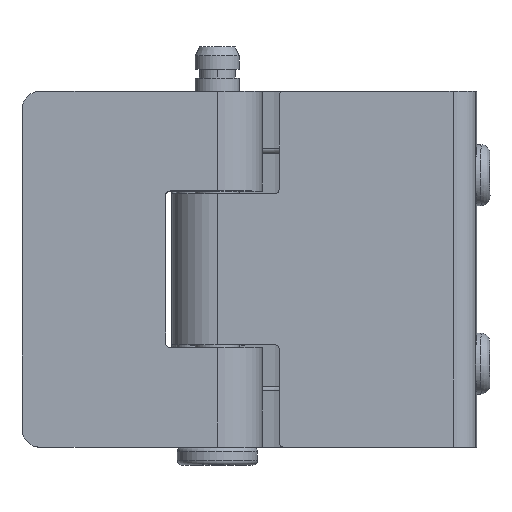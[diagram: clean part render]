
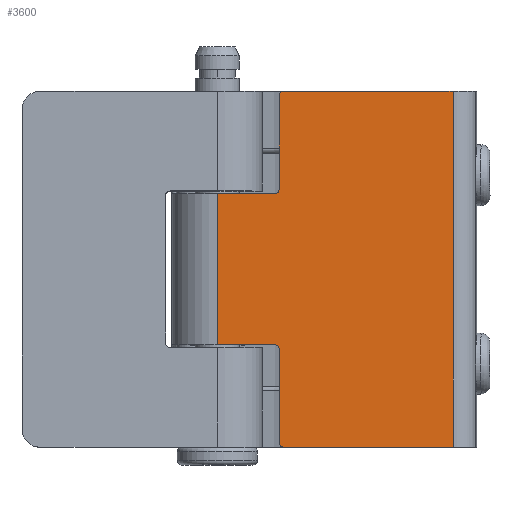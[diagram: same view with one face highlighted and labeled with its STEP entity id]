
A CAD part, top view. The second image highlights one B-rep face of the part: STEP entity #3600.
In plain terms, the highlighted planar face has unit normal (0, 0, 1).
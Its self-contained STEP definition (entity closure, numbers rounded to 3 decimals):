
#40 = VERTEX_POINT ( 'NONE', #4978 ) ;
#186 = CARTESIAN_POINT ( 'NONE',  ( 6.965, -19.496, 5.1 ) ) ;
#216 = ORIENTED_EDGE ( 'NONE', *, *, #5064, .T. ) ;
#233 = CARTESIAN_POINT ( 'NONE',  ( 6.461, 8.5, 5.1 ) ) ;
#273 = VECTOR ( 'NONE', #4726, 1000. ) ;
#319 = DIRECTION ( 'NONE',  ( 0., 0., 1. ) ) ;
#486 = CARTESIAN_POINT ( 'NONE',  ( 6.461, 8.5, 5.1 ) ) ;
#526 = EDGE_CURVE ( 'NONE', #40, #3540, #1320, .T. ) ;
#531 = CIRCLE ( 'NONE', #3613, 0.504 ) ;
#544 = ORIENTED_EDGE ( 'NONE', *, *, #2763, .T. ) ;
#668 = CARTESIAN_POINT ( 'NONE',  ( 6.965, -9.004, 5.1 ) ) ;
#680 = DIRECTION ( 'NONE',  ( 0., 1., 0. ) ) ;
#727 = EDGE_CURVE ( 'NONE', #881, #4430, #1706, .T. ) ;
#825 = VERTEX_POINT ( 'NONE', #233 ) ;
#852 = VECTOR ( 'NONE', #4404, 1000. ) ;
#881 = VERTEX_POINT ( 'NONE', #186 ) ;
#900 = CARTESIAN_POINT ( 'NONE',  ( 7.469, -20., 5.1 ) ) ;
#917 = DIRECTION ( 'NONE',  ( 1., 0., 0. ) ) ;
#983 = VECTOR ( 'NONE', #4561, 1000. ) ;
#1000 = LINE ( 'NONE', #2740, #5214 ) ;
#1033 = EDGE_CURVE ( 'NONE', #3593, #5596, #1000, .T. ) ;
#1101 = LINE ( 'NONE', #2835, #983 ) ;
#1128 = AXIS2_PLACEMENT_3D ( 'NONE', #5600, #4243, #1300 ) ;
#1204 = VERTEX_POINT ( 'NONE', #4548 ) ;
#1205 = VECTOR ( 'NONE', #4107, 1000. ) ;
#1248 = DIRECTION ( 'NONE',  ( 1., 0., 0. ) ) ;
#1249 = ORIENTED_EDGE ( 'NONE', *, *, #4942, .T. ) ;
#1300 = DIRECTION ( 'NONE',  ( 0., 1., 0. ) ) ;
#1320 = LINE ( 'NONE', #4819, #5069 ) ;
#1391 = CIRCLE ( 'NONE', #1128, 0.504 ) ;
#1567 = CIRCLE ( 'NONE', #1918, 0.504 ) ;
#1638 = LINE ( 'NONE', #3778, #3031 ) ;
#1663 = CARTESIAN_POINT ( 'NONE',  ( 6.461, 9.004, 5.1 ) ) ;
#1692 = DIRECTION ( 'NONE',  ( 0., 0., -1. ) ) ;
#1706 = LINE ( 'NONE', #5152, #273 ) ;
#1776 = CARTESIAN_POINT ( 'NONE',  ( 0., -8.5, 5.1 ) ) ;
#1779 = DIRECTION ( 'NONE',  ( 0., 1., 0. ) ) ;
#1832 = LINE ( 'NONE', #2267, #4921 ) ;
#1918 = AXIS2_PLACEMENT_3D ( 'NONE', #5026, #4115, #680 ) ;
#2013 = EDGE_CURVE ( 'NONE', #3785, #1204, #1832, .T. ) ;
#2229 = CARTESIAN_POINT ( 'NONE',  ( 7.469, -19.496, 5.1 ) ) ;
#2255 = CIRCLE ( 'NONE', #2622, 0.504 ) ;
#2262 = EDGE_CURVE ( 'NONE', #3785, #4357, #4590, .T. ) ;
#2267 = CARTESIAN_POINT ( 'NONE',  ( 0., -8.5, 5.1 ) ) ;
#2286 = ORIENTED_EDGE ( 'NONE', *, *, #2013, .F. ) ;
#2622 = AXIS2_PLACEMENT_3D ( 'NONE', #2229, #3455, #5190 ) ;
#2726 = CARTESIAN_POINT ( 'NONE',  ( 6.965, 9.004, 5.1 ) ) ;
#2740 = CARTESIAN_POINT ( 'NONE',  ( 6.965, 19.496, 5.1 ) ) ;
#2763 = EDGE_CURVE ( 'NONE', #4357, #4430, #1567, .T. ) ;
#2795 = DIRECTION ( 'NONE',  ( 0., -1., 0. ) ) ;
#2804 = ORIENTED_EDGE ( 'NONE', *, *, #4817, .T. ) ;
#2835 = CARTESIAN_POINT ( 'NONE',  ( 7.469, -20., 5.1 ) ) ;
#2882 = EDGE_CURVE ( 'NONE', #3540, #4364, #1638, .T. ) ;
#2896 = ORIENTED_EDGE ( 'NONE', *, *, #2882, .F. ) ;
#2912 = ORIENTED_EDGE ( 'NONE', *, *, #3158, .T. ) ;
#3031 = VECTOR ( 'NONE', #5238, 1000. ) ;
#3158 = EDGE_CURVE ( 'NONE', #825, #1204, #4810, .T. ) ;
#3228 = CARTESIAN_POINT ( 'NONE',  ( 6.461, -8.5, 5.1 ) ) ;
#3259 = EDGE_LOOP ( 'NONE', ( #2804, #2896, #4398, #3401, #3983, #1249, #2912, #2286, #3266, #544, #3928, #216 ) ) ;
#3266 = ORIENTED_EDGE ( 'NONE', *, *, #2262, .T. ) ;
#3401 = ORIENTED_EDGE ( 'NONE', *, *, #3545, .T. ) ;
#3417 = FACE_OUTER_BOUND ( 'NONE', #3259, .T. ) ;
#3455 = DIRECTION ( 'NONE',  ( 0., 0., 1. ) ) ;
#3540 = VERTEX_POINT ( 'NONE', #4209 ) ;
#3545 = EDGE_CURVE ( 'NONE', #40, #3593, #1391, .T. ) ;
#3593 = VERTEX_POINT ( 'NONE', #5144 ) ;
#3600 = ADVANCED_FACE ( 'NONE', ( #3417 ), #4742, .T. ) ;
#3613 = AXIS2_PLACEMENT_3D ( 'NONE', #1663, #1692, #3775 ) ;
#3775 = DIRECTION ( 'NONE',  ( 1., 0., 0. ) ) ;
#3778 = CARTESIAN_POINT ( 'NONE',  ( 26.503, 20., 5.1 ) ) ;
#3785 = VERTEX_POINT ( 'NONE', #1776 ) ;
#3928 = ORIENTED_EDGE ( 'NONE', *, *, #727, .F. ) ;
#3983 = ORIENTED_EDGE ( 'NONE', *, *, #1033, .T. ) ;
#4075 = CARTESIAN_POINT ( 'NONE',  ( 26.503, -20., 5.1 ) ) ;
#4107 = DIRECTION ( 'NONE',  ( 1., 0., 0. ) ) ;
#4115 = DIRECTION ( 'NONE',  ( 0., 0., -1. ) ) ;
#4168 = CARTESIAN_POINT ( 'NONE',  ( 0., -8.5, 5.1 ) ) ;
#4209 = CARTESIAN_POINT ( 'NONE',  ( 26.503, 20., 5.1 ) ) ;
#4237 = VERTEX_POINT ( 'NONE', #900 ) ;
#4243 = DIRECTION ( 'NONE',  ( 0., 0., 1. ) ) ;
#4316 = AXIS2_PLACEMENT_3D ( 'NONE', #4325, #319, #1248 ) ;
#4325 = CARTESIAN_POINT ( 'NONE',  ( 0., -20., 5.1 ) ) ;
#4357 = VERTEX_POINT ( 'NONE', #3228 ) ;
#4364 = VERTEX_POINT ( 'NONE', #4075 ) ;
#4398 = ORIENTED_EDGE ( 'NONE', *, *, #526, .F. ) ;
#4404 = DIRECTION ( 'NONE',  ( -1., 0., 0. ) ) ;
#4430 = VERTEX_POINT ( 'NONE', #668 ) ;
#4548 = CARTESIAN_POINT ( 'NONE',  ( 0., 8.5, 5.1 ) ) ;
#4561 = DIRECTION ( 'NONE',  ( 1., 0., 0. ) ) ;
#4590 = LINE ( 'NONE', #4168, #1205 ) ;
#4726 = DIRECTION ( 'NONE',  ( 0., 1., 0. ) ) ;
#4742 = PLANE ( 'NONE',  #4316 ) ;
#4810 = LINE ( 'NONE', #486, #852 ) ;
#4817 = EDGE_CURVE ( 'NONE', #4237, #4364, #1101, .T. ) ;
#4819 = CARTESIAN_POINT ( 'NONE',  ( 7.469, 20., 5.1 ) ) ;
#4921 = VECTOR ( 'NONE', #1779, 1000. ) ;
#4942 = EDGE_CURVE ( 'NONE', #5596, #825, #531, .T. ) ;
#4978 = CARTESIAN_POINT ( 'NONE',  ( 7.469, 20., 5.1 ) ) ;
#5026 = CARTESIAN_POINT ( 'NONE',  ( 6.461, -9.004, 5.1 ) ) ;
#5064 = EDGE_CURVE ( 'NONE', #881, #4237, #2255, .T. ) ;
#5069 = VECTOR ( 'NONE', #917, 1000. ) ;
#5144 = CARTESIAN_POINT ( 'NONE',  ( 6.965, 19.496, 5.1 ) ) ;
#5152 = CARTESIAN_POINT ( 'NONE',  ( 6.965, -19.496, 5.1 ) ) ;
#5190 = DIRECTION ( 'NONE',  ( -1., 0., 0. ) ) ;
#5214 = VECTOR ( 'NONE', #2795, 1000. ) ;
#5238 = DIRECTION ( 'NONE',  ( 0., -1., 0. ) ) ;
#5596 = VERTEX_POINT ( 'NONE', #2726 ) ;
#5600 = CARTESIAN_POINT ( 'NONE',  ( 7.469, 19.496, 5.1 ) ) ;
